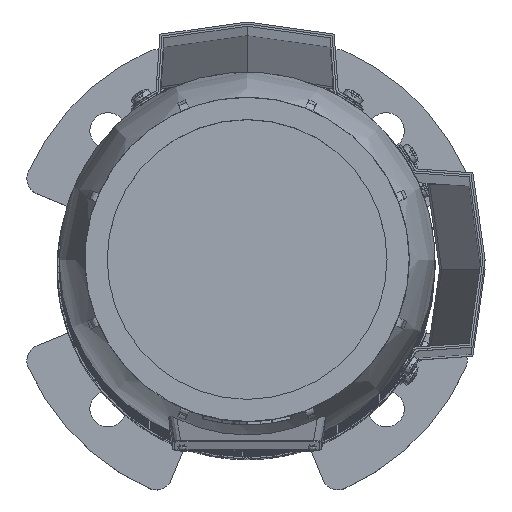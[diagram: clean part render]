
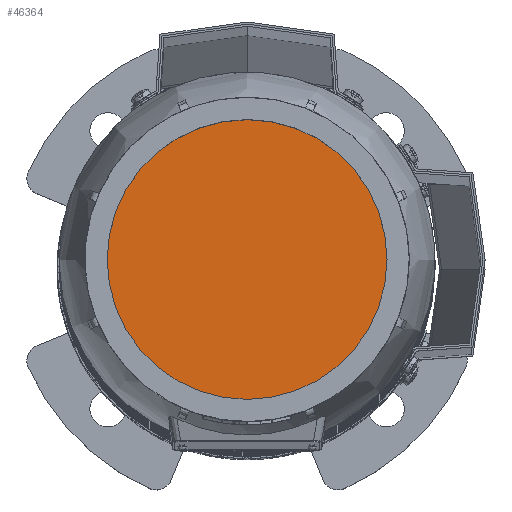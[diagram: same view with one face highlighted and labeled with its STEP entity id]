
A CAD part, top view. The second image highlights one B-rep face of the part: STEP entity #46364.
In plain terms, the highlighted planar face has unit normal (0, 0, 1) as drawn and (0, 1, 0) by its records, which use the part's own axes.
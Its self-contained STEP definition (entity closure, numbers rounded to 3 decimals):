
#9757=ORIENTED_EDGE('',*,*,#23703,.F.);
#23703=EDGE_CURVE('',#30676,#30676,#35383,.T.);
#30676=VERTEX_POINT('',#67016);
#35383=CIRCLE('',#48923,67.736);
#37505=EDGE_LOOP('',(#9757));
#40919=FACE_BOUND('',#37505,.T.);
#44351=PLANE('',#48922);
#46364=ADVANCED_FACE('',(#40919),#44351,.F.);
#48922=AXIS2_PLACEMENT_3D('',#67014,#53539,#53540);
#48923=AXIS2_PLACEMENT_3D('',#67015,#53541,#53542);
#53539=DIRECTION('',(0.,-1.,0.));
#53540=DIRECTION('',(0.,0.,-1.));
#53541=DIRECTION('',(0.,-1.,0.));
#53542=DIRECTION('',(0.,0.,-1.));
#67014=CARTESIAN_POINT('',(0.,154.,0.));
#67015=CARTESIAN_POINT('',(0.,154.,0.));
#67016=CARTESIAN_POINT('',(0.,154.,-67.736));
